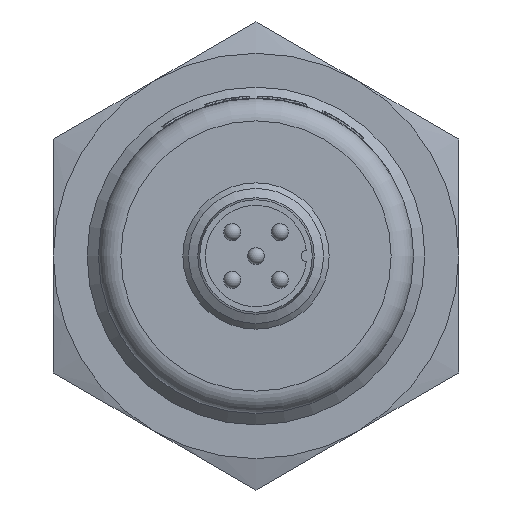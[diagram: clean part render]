
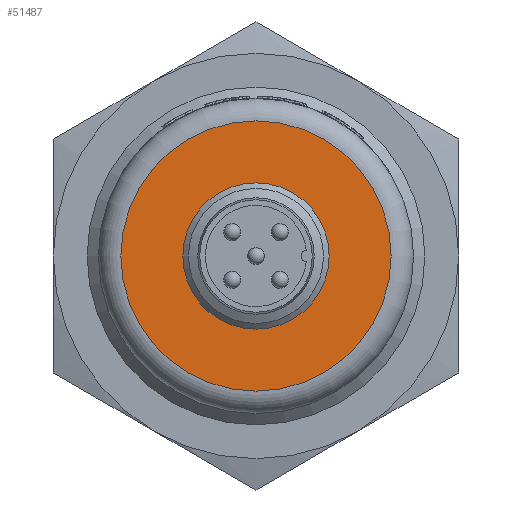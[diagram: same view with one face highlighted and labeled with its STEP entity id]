
A CAD part, left-side view. The second image highlights one B-rep face of the part: STEP entity #51487.
In plain terms, the highlighted planar face has unit normal (-1, 0, 0).
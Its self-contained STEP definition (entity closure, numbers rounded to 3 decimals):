
#51453=CARTESIAN_POINT('',(-84.0,6.5,0.0));
#51454=VERTEX_POINT('',#51453);
#51455=CARTESIAN_POINT('',(-84.0,0.,0.0));
#51456=DIRECTION('',(1.0,0.0,0.0));
#51457=DIRECTION('',(0.0,1.0,0.0));
#51458=AXIS2_PLACEMENT_3D('',#51455,#51456,#51457);
#51459=CIRCLE('',#51458,6.5);
#51460=EDGE_CURVE('',#51454,#51454,#51459,.T.);
#51468=CARTESIAN_POINT('',(-84.,9.25,0.0));
#51469=DIRECTION('',(-1.0,0.0,0.0));
#51470=DIRECTION('',(0.0,0.0,1.0));
#51471=AXIS2_PLACEMENT_3D('',#51468,#51469,#51470);
#51472=PLANE('',#51471);
#51473=CARTESIAN_POINT('',(-84.,12.,0.0));
#51474=VERTEX_POINT('',#51473);
#51475=CARTESIAN_POINT('',(-84.,0.,0.0));
#51476=DIRECTION('',(1.0,0.0,0.0));
#51477=DIRECTION('',(0.0,1.0,0.0));
#51478=AXIS2_PLACEMENT_3D('',#51475,#51476,#51477);
#51479=CIRCLE('',#51478,12.);
#51480=EDGE_CURVE('',#51474,#51474,#51479,.T.);
#51481=ORIENTED_EDGE('',*,*,#51480,.F.);
#51482=EDGE_LOOP('',(#51481));
#51483=FACE_OUTER_BOUND('',#51482,.T.);
#51484=ORIENTED_EDGE('',*,*,#51460,.T.);
#51485=EDGE_LOOP('',(#51484));
#51486=FACE_BOUND('',#51485,.T.);
#51487=ADVANCED_FACE('',(#51483,#51486),#51472,.T.);
